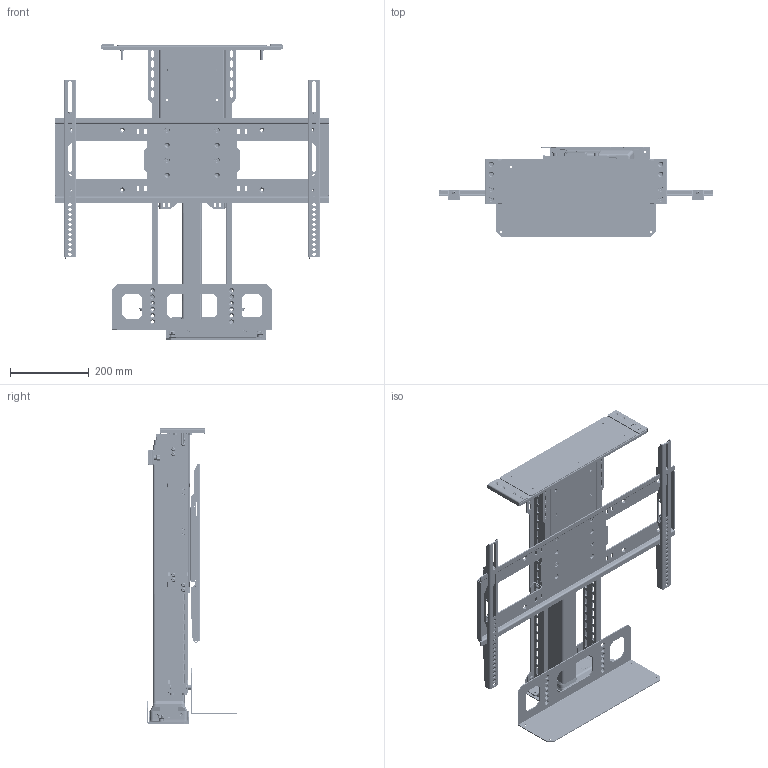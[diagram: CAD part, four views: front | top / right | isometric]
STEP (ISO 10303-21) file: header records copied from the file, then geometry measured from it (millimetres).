
FILE_DESCRIPTION(/* description */ ('STEP AP242','CAx-IF Rec.Pracs.---Representation and Presentation of Product Manufacturing Information (PMI)---4.0---2014-10-13','CAx-IF Rec.Pracs.---3D Tessellated Geometry---0.4---2014-09-14','2;1'),/* implementation_level */ '2;1');
FILE_NAME(/* name */ '63f8fa80155145463c39849a',/* time_stamp */ '2023-02-24T17:57:25+00:00',/* author */ (''),/* organization */ (''),/* preprocessor_version */ 'ST-DEVELOPER v18.102',/* originating_system */ ' ',/* authorisation */ ' ');
FILE_SCHEMA (('AP242_MANAGED_MODEL_BASED_3D_ENGINEERING_MIM_LF { 1 0 10303 442 1 1 4 }'));
Products named in the file (64): L-65/s; Hex socket countersunk head screw M6x1 x 16; Hex socket countersunk head screw M6x1 x 12; Socket button head screw M6x1 x 12; WDS8151-215; ULS-NX-011 - ULS ACCESSORY MOUNTING BRACKET SPACER <2>; ULS-NX-011 - UL ACCESSORY MOUNTING BRACKET SPACER; PRODUCT_NAME_1; ULS Accessories <1>; 1/4in Spacer; ULS-NX-010 - ULS ACCESSORY MOUNTING BRACKET W PEMS <2>; PEM CLS-M6-2  ; ULS-NX-010 - UL ACCESSORY MOUNTING BRACKET; NEX-LM-013 - CENTER CHANNEL MOUNT - REV B; ULS-NX-010 - ULS ACCESSORY MOUNTING BRACKET W PEMS <1>; ULS-NX-108 - ULS SCREEN SUPPORT WELDMENT <1>; PEM CLS-M6-1  ; F-M6-3 M6 PEM NUT; ULS-NX-008 - UL SCREEN SUPPORT SHELL; ULS-NX-009 - ULS SCREEN SUPPORT TOP PLATE <1>; ULS-NX-009 - UL SCREEN SUPPORT TOP PLATE; Lid Plate Assembly W/ Lid Supports <1>; ULS-NX-012 - ULS LID SUPPORT W PEMS <1>; UL LID SUPPORT (ULS-NX-012); ULS-NX-012 - ULS LID SUPPORT W PEMS <2>; LID-FL-ULS - ULS Lid Plate Assembly <1>; ULS-NX-006 - Lid Adapter W/ Pin <1>; OLD_ULS-NX-006 - UL LID ADAPTER <1>; ULS-NX-006 - UL LID ADAPTER; FHS-273-24 PEM; FL Sub Asm <1>; 97069A106_Zinc-Plated Steel Spring Lock Washer; Plain washer large grade A M6; Hex socket countersunk head screw M6x1 x 8; ULS-NX-007 - UL LID PLATE EXTENDER; Hex nut grade C M6x1; NEX-LM-032 LID PIN GUIDE; ULS-NX-005 - UL LID PLATE W PEMS <1>; ULS-NX-005 - UL LID PLATE; PEM FHS-M6-15  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
Assembly tree (194 placements, depth 6):
  L-65/s
    Hex socket countersunk head screw M6x1 x 16  x4
    Hex socket countersunk head screw M6x1 x 12  x12
    Socket button head screw M6x1 x 12  x16
    WDS8151-215  x4
    ULS-NX-011 - ULS ACCESSORY MOUNTING BRACKET SPACER <2>
      ULS-NX-011 - UL ACCESSORY MOUNTING BRACKET SPACER
      PRODUCT_NAME_1  x2
    ULS Accessories <1>
      1/4in Spacer  x2
      ULS-NX-010 - ULS ACCESSORY MOUNTING BRACKET W PEMS <2>
        PEM CLS-M6-2    x4
        ULS-NX-010 - UL ACCESSORY MOUNTING BRACKET
      NEX-LM-013 - CENTER CHANNEL MOUNT - REV B
      ULS-NX-010 - ULS ACCESSORY MOUNTING BRACKET W PEMS <1>
        PEM CLS-M6-2    x4
        ULS-NX-010 - UL ACCESSORY MOUNTING BRACKET
    ULS-NX-108 - ULS SCREEN SUPPORT WELDMENT <1>
      PEM CLS-M6-1    x32
      F-M6-3 M6 PEM NUT
      ULS-NX-008 - UL SCREEN SUPPORT SHELL
      ULS-NX-009 - ULS SCREEN SUPPORT TOP PLATE <1>
        PEM CLS-M6-1    x4
        ULS-NX-009 - UL SCREEN SUPPORT TOP PLATE
    Lid Plate Assembly W/ Lid Supports <1>
      ULS-NX-012 - ULS LID SUPPORT W PEMS <1>
        PEM CLS-M6-2    x2
        UL LID SUPPORT (ULS-NX-012)
      ULS-NX-012 - ULS LID SUPPORT W PEMS <2>
        PEM CLS-M6-2    x2
        UL LID SUPPORT (ULS-NX-012)
      LID-FL-ULS - ULS Lid Plate Assembly <1>
        ULS-NX-006 - Lid Adapter W/ Pin <1>
          OLD_ULS-NX-006 - UL LID ADAPTER <1>
            ULS-NX-006 - UL LID ADAPTER
            FHS-273-24 PEM  x2
        FL Sub Asm <1>
          97069A106_Zinc-Plated Steel Spring Lock Washer  x4
          Plain washer large grade A M6  x4
          Hex socket countersunk head screw M6x1 x 8  x4
          ULS-NX-007 - UL LID PLATE EXTENDER  x2
          Hex nut grade C M6x1  x4
          NEX-LM-032 LID PIN GUIDE  x2
          ULS-NX-005 - UL LID PLATE W PEMS <1>
            PEM CLS-M6-2    x8
            ULS-NX-005 - UL LID PLATE
            PEM FHS-M6-15    x4
    SBP & VMB <1>
      PZ Pan head screw M5x0.80 x 25  x2
      ULS-NX-017 - UL SCREEN BACK PLATE
      ULS-NX-118 - UL VMB WELDMENT <2>
        Socket button head cap screw #6-32 x 0.188  x2
        VMB Washer  x4
        ULS-NX-019 - UL LEVEL ADJUSTMENT PLATE
        PEM BSO-632-10  ZI  x2
        90107A012  x2
        ULS-NX-018 - UL VERICAL MOUNTING BAR
        ULS-NX-020 - UL SCREEN LOCK
      ULS-NX-118 - UL VMB WELDMENT <1>
        VMB Washer  x4
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Bounding box: 698.5 x 228.39 x 750.68 mm (x, y, z)
Volume: 9088888.2 mm3; surface area: 2100181.8 mm2
Topology: 173 solids, 173 shells, 12117 faces, 32357 edges, 21001 vertices
Faces by surface type: plane 8509, cylinder 2046, cone 767, bspline 535, torus 218, sphere 42
Full cylindrical faces by diameter (mm): 2.642 x4, 3.505 x4, 4.6 x2, 4.917 x61, 4.978 x4, 5 x16, 5.026 x4, 5.08 x4, 5.277 x8, 5.3 x6, 5.385 x12, 5.41 x8, 5.486 x4, 5.499 x2, 5.6 x4, 5.613 x6, 5.944 x4, 5.994 x2, 6 x70, 6.095 x2, 6.35 x16, 6.4 x4, 6.401 x2, 6.528 x4, 6.6 x2, 6.604 x4, 6.655 x4, 6.934 x2, 6.976 x1, 7.112 x2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
Entity records: 105669 total; most frequent: CARTESIAN_POINT 20315, DIRECTION 16750, ORIENTED_EDGE 16224, EDGE_CURVE 8112, AXIS2_PLACEMENT_3D 5729, VERTEX_POINT 5401, LINE 5292, VECTOR 5292
